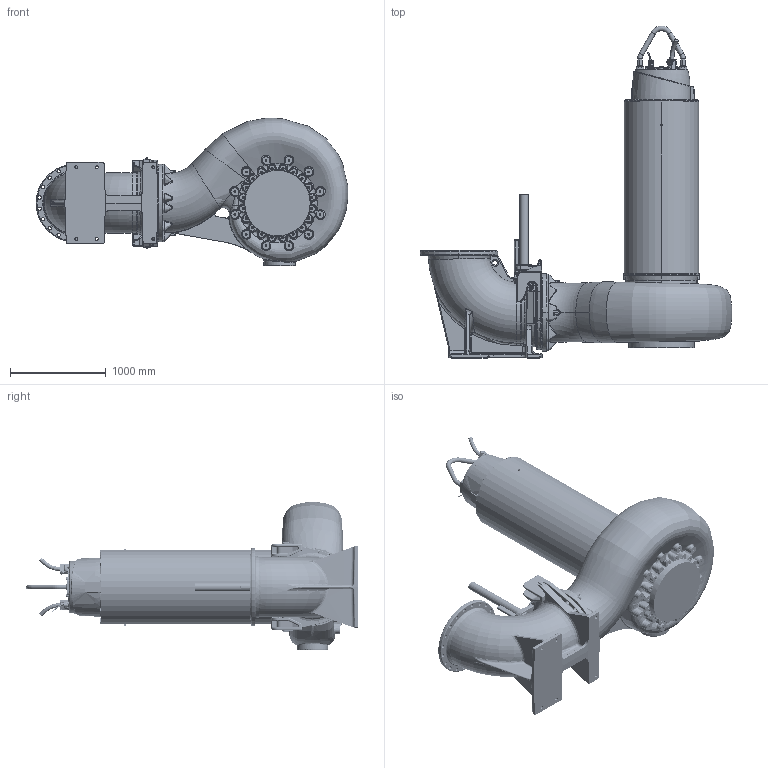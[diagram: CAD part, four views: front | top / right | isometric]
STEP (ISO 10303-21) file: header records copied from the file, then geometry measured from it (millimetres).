
FILE_DESCRIPTION (( 'STEP AP214' ), '1' );
FILE_NAME ('PE7_XFP600V-CH3_WET_F.STEP', '2017-04-03T07:36:20', ( '' ), ( '' ), 'SwSTEP 2.0', 'SolidWorks 2017', '' );
FILE_SCHEMA (( 'AUTOMOTIVE_DESIGN' ));
Length unit declared in the file: millimetre
Products named in the file (1): PE7_XFP600V-CH3_WET_F
Bounding box: 3264.34 x 3474.48 x 1547.05 mm (x, y, z)
Volume: 2644049570.7 mm3; surface area: 22776127.5 mm2
Topology: 4 solids, 28 shells, 5317 faces, 13222 edges, 7775 vertices
Faces by surface type: plane 1419, bspline 1381, cylinder 1354, torus 517, cone 455, sphere 191
Entity records: 352844 total; most frequent: CARTESIAN_POINT 179866, ORIENTED_EDGE 25758, DIRECTION 21627, EDGE_CURVE 12879, AXIS2_PLACEMENT_3D 8547, VERTEX_POINT 7775, EDGE_LOOP 5676, UNCERTAINTY_MEASURE_WITH_UNIT 5323
